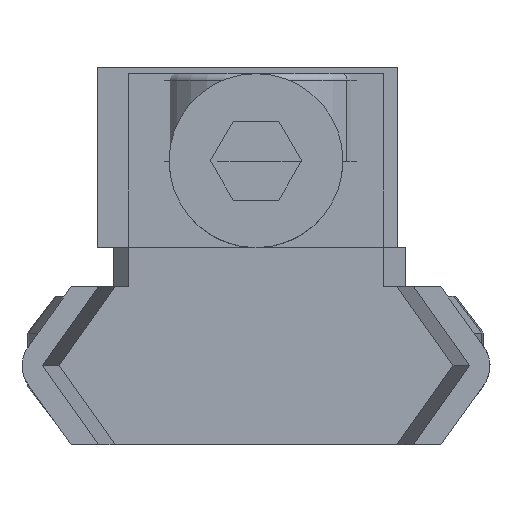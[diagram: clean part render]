
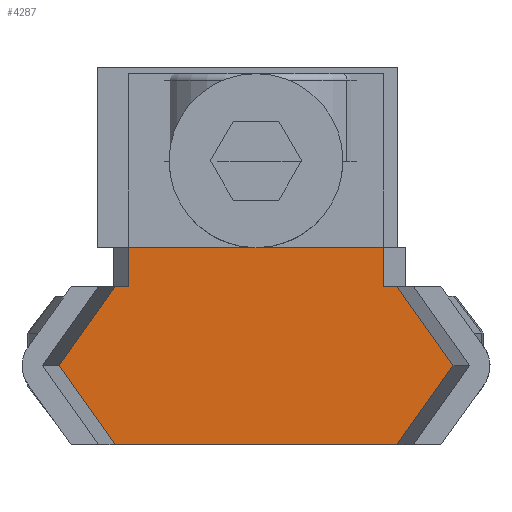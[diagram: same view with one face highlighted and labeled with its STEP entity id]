
A CAD part, left-side view. The second image highlights one B-rep face of the part: STEP entity #4287.
In plain terms, the highlighted planar face has unit normal (-1, 0, 0).
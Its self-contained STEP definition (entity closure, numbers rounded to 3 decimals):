
#168 = VECTOR ( 'NONE', #881, 1000. ) ;
#173 = EDGE_CURVE ( 'NONE', #3583, #4499, #3158, .T. ) ;
#187 = CARTESIAN_POINT ( 'NONE',  ( 3., 0., 4.04 ) ) ;
#199 = PLANE ( 'NONE',  #4289 ) ;
#331 = EDGE_LOOP ( 'NONE', ( #4077, #1668, #3433, #5783, #5450, #1789, #4241, #784, #2040, #3638, #5531, #3210 ) ) ;
#385 = CARTESIAN_POINT ( 'NONE',  ( 3., -5., -4.451 ) ) ;
#528 = DIRECTION ( 'NONE',  ( 0., -0.815, 0.579 ) ) ;
#562 = DIRECTION ( 'NONE',  ( 0., 0., -1. ) ) ;
#565 = VERTEX_POINT ( 'NONE', #3769 ) ;
#603 = VECTOR ( 'NONE', #2992, 1000. ) ;
#693 = VECTOR ( 'NONE', #528, 1000. ) ;
#724 = DIRECTION ( 'NONE',  ( 0., 0., 1. ) ) ;
#755 = VECTOR ( 'NONE', #5662, 1000. ) ;
#784 = ORIENTED_EDGE ( 'NONE', *, *, #4859, .F. ) ;
#881 = DIRECTION ( 'NONE',  ( 0., -1., 0. ) ) ;
#1009 = CARTESIAN_POINT ( 'NONE',  ( 3., 0., 4.04 ) ) ;
#1189 = CARTESIAN_POINT ( 'NONE',  ( 3., -5., 0.665 ) ) ;
#1207 = LINE ( 'NONE', #5421, #5266 ) ;
#1242 = DIRECTION ( 'NONE',  ( 0., 0., -1. ) ) ;
#1339 = DIRECTION ( 'NONE',  ( 0., 0.815, 0.579 ) ) ;
#1360 = CARTESIAN_POINT ( 'NONE',  ( 3., -5., 4.451 ) ) ;
#1441 = VERTEX_POINT ( 'NONE', #2548 ) ;
#1513 = DIRECTION ( 'NONE',  ( 0., 0., 1. ) ) ;
#1577 = CARTESIAN_POINT ( 'NONE',  ( 3., -2.5, -6.228 ) ) ;
#1668 = ORIENTED_EDGE ( 'NONE', *, *, #4478, .T. ) ;
#1719 = LINE ( 'NONE', #1009, #2870 ) ;
#1789 = ORIENTED_EDGE ( 'NONE', *, *, #5987, .T. ) ;
#1901 = VERTEX_POINT ( 'NONE', #2867 ) ;
#1946 = CARTESIAN_POINT ( 'NONE',  ( 3., 1.25, 0.234 ) ) ;
#2006 = CARTESIAN_POINT ( 'NONE',  ( 3., -7.185, 2.897 ) ) ;
#2040 = ORIENTED_EDGE ( 'NONE', *, *, #3945, .T. ) ;
#2061 = VERTEX_POINT ( 'NONE', #1946 ) ;
#2184 = VERTEX_POINT ( 'NONE', #187 ) ;
#2251 = LINE ( 'NONE', #3263, #5930 ) ;
#2285 = CARTESIAN_POINT ( 'NONE',  ( 3., 0., -4.04 ) ) ;
#2325 = CARTESIAN_POINT ( 'NONE',  ( 3., 1.25, 4.04 ) ) ;
#2377 = VERTEX_POINT ( 'NONE', #4598 ) ;
#2544 = DIRECTION ( 'NONE',  ( 0., 0.815, 0.579 ) ) ;
#2548 = CARTESIAN_POINT ( 'NONE',  ( 3., 0., -4.04 ) ) ;
#2598 = CARTESIAN_POINT ( 'NONE',  ( 3., 0., 4.451 ) ) ;
#2722 = EDGE_CURVE ( 'NONE', #5030, #2184, #1719, .T. ) ;
#2867 = CARTESIAN_POINT ( 'NONE',  ( 3., 0., -4.451 ) ) ;
#2870 = VECTOR ( 'NONE', #4357, 1000. ) ;
#2883 = LINE ( 'NONE', #2285, #168 ) ;
#2992 = DIRECTION ( 'NONE',  ( 0., 0.815, -0.579 ) ) ;
#3156 = EDGE_CURVE ( 'NONE', #4499, #1901, #4349, .T. ) ;
#3158 = LINE ( 'NONE', #3913, #603 ) ;
#3210 = ORIENTED_EDGE ( 'NONE', *, *, #3961, .F. ) ;
#3255 = FACE_OUTER_BOUND ( 'NONE', #331, .T. ) ;
#3263 = CARTESIAN_POINT ( 'NONE',  ( 3., 1.25, 0. ) ) ;
#3433 = ORIENTED_EDGE ( 'NONE', *, *, #5089, .T. ) ;
#3462 = DIRECTION ( 'NONE',  ( 0., 0., 1. ) ) ;
#3475 = DIRECTION ( 'NONE',  ( -1., 0., 0. ) ) ;
#3583 = VERTEX_POINT ( 'NONE', #385 ) ;
#3585 = CARTESIAN_POINT ( 'NONE',  ( 3., 0., 0. ) ) ;
#3638 = ORIENTED_EDGE ( 'NONE', *, *, #2722, .F. ) ;
#3769 = CARTESIAN_POINT ( 'NONE',  ( 3., 1.25, -4.04 ) ) ;
#3771 = LINE ( 'NONE', #1189, #4665 ) ;
#3913 = CARTESIAN_POINT ( 'NONE',  ( 3., -5., -4.451 ) ) ;
#3945 = EDGE_CURVE ( 'NONE', #4071, #2184, #5573, .T. ) ;
#3961 = EDGE_CURVE ( 'NONE', #2377, #2061, #4917, .T. ) ;
#4071 = VERTEX_POINT ( 'NONE', #2598 ) ;
#4077 = ORIENTED_EDGE ( 'NONE', *, *, #5242, .F. ) ;
#4197 = VECTOR ( 'NONE', #1339, 1000. ) ;
#4241 = ORIENTED_EDGE ( 'NONE', *, *, #5252, .T. ) ;
#4287 = ADVANCED_FACE ( 'NONE', ( #3255 ), #199, .F. ) ;
#4289 = AXIS2_PLACEMENT_3D ( 'NONE', #3585, #5072, #1242 ) ;
#4309 = CARTESIAN_POINT ( 'NONE',  ( 3., 0., 4.451 ) ) ;
#4349 = LINE ( 'NONE', #4649, #4197 ) ;
#4357 = DIRECTION ( 'NONE',  ( 0., -1., 0. ) ) ;
#4478 = EDGE_CURVE ( 'NONE', #565, #1441, #2883, .T. ) ;
#4499 = VERTEX_POINT ( 'NONE', #1577 ) ;
#4597 = LINE ( 'NONE', #2006, #6003 ) ;
#4598 = CARTESIAN_POINT ( 'NONE',  ( 3., 1.25, -0.234 ) ) ;
#4649 = CARTESIAN_POINT ( 'NONE',  ( 3., -2.5, -6.228 ) ) ;
#4665 = VECTOR ( 'NONE', #724, 1000. ) ;
#4686 = DIRECTION ( 'NONE',  ( 0., 0., 1. ) ) ;
#4859 = EDGE_CURVE ( 'NONE', #4071, #5970, #5934, .T. ) ;
#4917 = CIRCLE ( 'NONE', #5611, 2.75 ) ;
#4962 = CARTESIAN_POINT ( 'NONE',  ( 3., 3.99, 0. ) ) ;
#5030 = VERTEX_POINT ( 'NONE', #2325 ) ;
#5049 = LINE ( 'NONE', #5208, #755 ) ;
#5072 = DIRECTION ( 'NONE',  ( 1., 0., 0. ) ) ;
#5082 = VERTEX_POINT ( 'NONE', #1360 ) ;
#5089 = EDGE_CURVE ( 'NONE', #1441, #1901, #5049, .T. ) ;
#5098 = EDGE_CURVE ( 'NONE', #2061, #5030, #2251, .T. ) ;
#5208 = CARTESIAN_POINT ( 'NONE',  ( 3., 0., -0.176 ) ) ;
#5242 = EDGE_CURVE ( 'NONE', #565, #2377, #1207, .T. ) ;
#5252 = EDGE_CURVE ( 'NONE', #5082, #5970, #4597, .T. ) ;
#5266 = VECTOR ( 'NONE', #3462, 1000. ) ;
#5421 = CARTESIAN_POINT ( 'NONE',  ( 3., 1.25, 0. ) ) ;
#5450 = ORIENTED_EDGE ( 'NONE', *, *, #173, .F. ) ;
#5531 = ORIENTED_EDGE ( 'NONE', *, *, #5098, .F. ) ;
#5573 = LINE ( 'NONE', #5818, #6092 ) ;
#5611 = AXIS2_PLACEMENT_3D ( 'NONE', #4962, #3475, #1513 ) ;
#5662 = DIRECTION ( 'NONE',  ( 0., 0., -1. ) ) ;
#5783 = ORIENTED_EDGE ( 'NONE', *, *, #3156, .F. ) ;
#5818 = CARTESIAN_POINT ( 'NONE',  ( 3., 0., -0.176 ) ) ;
#5930 = VECTOR ( 'NONE', #4686, 1000. ) ;
#5934 = LINE ( 'NONE', #4309, #693 ) ;
#5970 = VERTEX_POINT ( 'NONE', #6000 ) ;
#5987 = EDGE_CURVE ( 'NONE', #3583, #5082, #3771, .T. ) ;
#6000 = CARTESIAN_POINT ( 'NONE',  ( 3., -2.5, 6.228 ) ) ;
#6003 = VECTOR ( 'NONE', #2544, 1000. ) ;
#6092 = VECTOR ( 'NONE', #562, 1000. ) ;
